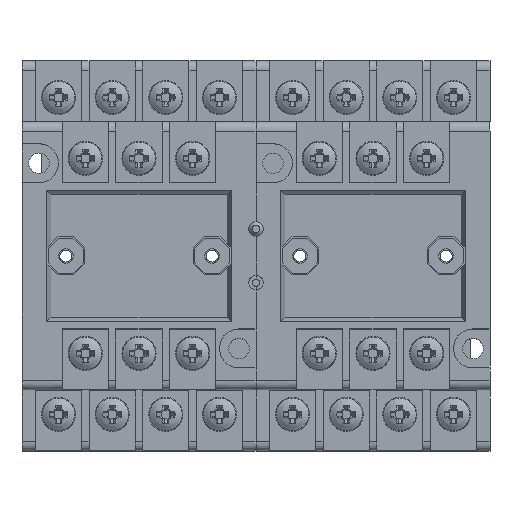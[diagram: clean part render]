
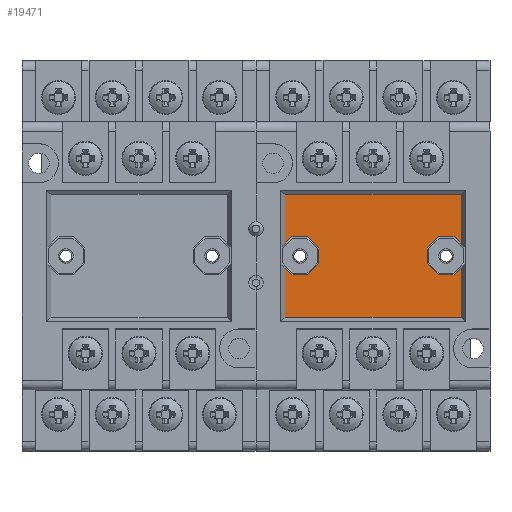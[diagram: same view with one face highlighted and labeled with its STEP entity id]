
A CAD part, top view. The second image highlights one B-rep face of the part: STEP entity #19471.
In plain terms, the highlighted planar face has unit normal (0, 0, 1).
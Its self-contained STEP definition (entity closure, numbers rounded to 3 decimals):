
#18095=CARTESIAN_POINT('',(35.1,1.615,25.5));
#18096=VERTEX_POINT('',#18095);
#18097=CARTESIAN_POINT('',(37.385,3.9,25.5));
#18098=VERTEX_POINT('',#18097);
#18099=CARTESIAN_POINT('',(35.1,1.615,25.5));
#18100=DIRECTION('',(0.707,0.707,0.0));
#18101=VECTOR('',#18100,3.231);
#18102=LINE('',#18099,#18101);
#18103=EDGE_CURVE('',#18096,#18098,#18102,.T.);
#18135=CARTESIAN_POINT('',(40.615,3.9,25.5));
#18136=VERTEX_POINT('',#18135);
#18137=CARTESIAN_POINT('',(37.385,3.9,25.5));
#18138=DIRECTION('',(1.0,0.,0.0));
#18139=VECTOR('',#18138,3.231);
#18140=LINE('',#18137,#18139);
#18141=EDGE_CURVE('',#18098,#18136,#18140,.T.);
#18166=CARTESIAN_POINT('',(42.09,2.425,25.5));
#18167=VERTEX_POINT('',#18166);
#18168=CARTESIAN_POINT('',(40.615,3.9,25.5));
#18169=DIRECTION('',(0.707,-0.707,0.0));
#18170=VECTOR('',#18169,2.085);
#18171=LINE('',#18168,#18170);
#18172=EDGE_CURVE('',#18136,#18167,#18171,.T.);
#18236=CARTESIAN_POINT('',(35.1,-1.615,25.5));
#18237=VERTEX_POINT('',#18236);
#18238=CARTESIAN_POINT('',(35.1,-1.615,25.5));
#18239=DIRECTION('',(0.,1.0,0.0));
#18240=VECTOR('',#18239,3.231);
#18241=LINE('',#18238,#18240);
#18242=EDGE_CURVE('',#18237,#18096,#18241,.T.);
#18267=CARTESIAN_POINT('',(37.385,-3.9,25.5));
#18268=VERTEX_POINT('',#18267);
#18269=CARTESIAN_POINT('',(37.385,-3.9,25.5));
#18270=DIRECTION('',(-0.707,0.707,0.0));
#18271=VECTOR('',#18270,3.231);
#18272=LINE('',#18269,#18271);
#18273=EDGE_CURVE('',#18268,#18237,#18272,.T.);
#18298=CARTESIAN_POINT('',(40.615,-3.9,25.5));
#18299=VERTEX_POINT('',#18298);
#18300=CARTESIAN_POINT('',(40.615,-3.9,25.5));
#18301=DIRECTION('',(-1.0,0.,0.0));
#18302=VECTOR('',#18301,3.231);
#18303=LINE('',#18300,#18302);
#18304=EDGE_CURVE('',#18299,#18268,#18303,.T.);
#18329=CARTESIAN_POINT('',(42.09,-2.425,25.5));
#18330=VERTEX_POINT('',#18329);
#18331=CARTESIAN_POINT('',(42.09,-2.425,25.5));
#18332=DIRECTION('',(-0.707,-0.707,0.0));
#18333=VECTOR('',#18332,2.085);
#18334=LINE('',#18331,#18333);
#18335=EDGE_CURVE('',#18330,#18299,#18334,.T.);
#18385=CARTESIAN_POINT('',(12.9,-1.615,25.5));
#18386=VERTEX_POINT('',#18385);
#18387=CARTESIAN_POINT('',(10.615,-3.9,25.5));
#18388=VERTEX_POINT('',#18387);
#18389=CARTESIAN_POINT('',(12.9,-1.615,25.5));
#18390=DIRECTION('',(-0.707,-0.707,0.0));
#18391=VECTOR('',#18390,3.231);
#18392=LINE('',#18389,#18391);
#18393=EDGE_CURVE('',#18386,#18388,#18392,.T.);
#18425=CARTESIAN_POINT('',(7.385,-3.9,25.5));
#18426=VERTEX_POINT('',#18425);
#18427=CARTESIAN_POINT('',(10.615,-3.9,25.5));
#18428=DIRECTION('',(-1.0,0.0,0.0));
#18429=VECTOR('',#18428,3.231);
#18430=LINE('',#18427,#18429);
#18431=EDGE_CURVE('',#18388,#18426,#18430,.T.);
#18456=CARTESIAN_POINT('',(5.91,-2.425,25.5));
#18457=VERTEX_POINT('',#18456);
#18458=CARTESIAN_POINT('',(7.385,-3.9,25.5));
#18459=DIRECTION('',(-0.707,0.707,0.0));
#18460=VECTOR('',#18459,2.085);
#18461=LINE('',#18458,#18460);
#18462=EDGE_CURVE('',#18426,#18457,#18461,.T.);
#18526=CARTESIAN_POINT('',(10.615,3.9,25.5));
#18527=VERTEX_POINT('',#18526);
#18528=CARTESIAN_POINT('',(12.9,1.615,25.5));
#18529=VERTEX_POINT('',#18528);
#18530=CARTESIAN_POINT('',(10.615,3.9,25.5));
#18531=DIRECTION('',(0.707,-0.707,0.0));
#18532=VECTOR('',#18531,3.231);
#18533=LINE('',#18530,#18532);
#18534=EDGE_CURVE('',#18527,#18529,#18533,.T.);
#18566=CARTESIAN_POINT('',(7.385,3.9,25.5));
#18567=VERTEX_POINT('',#18566);
#18568=CARTESIAN_POINT('',(7.385,3.9,25.5));
#18569=DIRECTION('',(1.0,0.0,0.0));
#18570=VECTOR('',#18569,3.231);
#18571=LINE('',#18568,#18570);
#18572=EDGE_CURVE('',#18567,#18527,#18571,.T.);
#18597=CARTESIAN_POINT('',(5.91,2.425,25.5));
#18598=VERTEX_POINT('',#18597);
#18599=CARTESIAN_POINT('',(5.91,2.425,25.5));
#18600=DIRECTION('',(0.707,0.707,0.0));
#18601=VECTOR('',#18600,2.085);
#18602=LINE('',#18599,#18601);
#18603=EDGE_CURVE('',#18598,#18567,#18602,.T.);
#18627=CARTESIAN_POINT('',(12.9,1.615,25.5));
#18628=DIRECTION('',(0.0,-1.0,0.0));
#18629=VECTOR('',#18628,3.231);
#18630=LINE('',#18627,#18629);
#18631=EDGE_CURVE('',#18529,#18386,#18630,.T.);
#18678=CARTESIAN_POINT('',(42.09,-12.59,25.5));
#18679=VERTEX_POINT('',#18678);
#18680=CARTESIAN_POINT('',(42.09,-12.59,25.5));
#18681=DIRECTION('',(0.,1.0,0.0));
#18682=VECTOR('',#18681,10.165);
#18683=LINE('',#18680,#18682);
#18684=EDGE_CURVE('',#18679,#18330,#18683,.T.);
#18693=CARTESIAN_POINT('',(42.09,12.59,25.5));
#18694=VERTEX_POINT('',#18693);
#18701=CARTESIAN_POINT('',(42.09,2.425,25.5));
#18702=DIRECTION('',(0.,1.0,0.0));
#18703=VECTOR('',#18702,10.165);
#18704=LINE('',#18701,#18703);
#18705=EDGE_CURVE('',#18167,#18694,#18704,.T.);
#18718=CARTESIAN_POINT('',(5.91,12.59,25.5));
#18719=VERTEX_POINT('',#18718);
#18720=CARTESIAN_POINT('',(5.91,12.59,25.5));
#18721=DIRECTION('',(0.,-1.0,0.0));
#18722=VECTOR('',#18721,10.165);
#18723=LINE('',#18720,#18722);
#18724=EDGE_CURVE('',#18719,#18598,#18723,.T.);
#18733=CARTESIAN_POINT('',(5.91,-12.59,25.5));
#18734=VERTEX_POINT('',#18733);
#18741=CARTESIAN_POINT('',(5.91,-2.425,25.5));
#18742=DIRECTION('',(0.,-1.0,0.0));
#18743=VECTOR('',#18742,10.165);
#18744=LINE('',#18741,#18743);
#18745=EDGE_CURVE('',#18457,#18734,#18744,.T.);
#19415=CARTESIAN_POINT('',(5.91,-12.59,25.5));
#19416=DIRECTION('',(1.0,0.,0.0));
#19417=VECTOR('',#19416,36.18);
#19418=LINE('',#19415,#19417);
#19419=EDGE_CURVE('',#18734,#18679,#19418,.T.);
#19432=CARTESIAN_POINT('',(42.09,12.59,25.5));
#19433=DIRECTION('',(-1.0,0.,0.0));
#19434=VECTOR('',#19433,36.18);
#19435=LINE('',#19432,#19434);
#19436=EDGE_CURVE('',#18694,#18719,#19435,.T.);
#19444=CARTESIAN_POINT('',(24.,0.,25.5));
#19445=DIRECTION('',(0.0,0.0,1.0));
#19446=DIRECTION('',(0.0,1.0,0.0));
#19447=AXIS2_PLACEMENT_3D('',#19444,#19445,#19446);
#19448=PLANE('',#19447);
#19449=ORIENTED_EDGE('',*,*,#18172,.T.);
#19450=ORIENTED_EDGE('',*,*,#18705,.T.);
#19451=ORIENTED_EDGE('',*,*,#19436,.T.);
#19452=ORIENTED_EDGE('',*,*,#18724,.T.);
#19453=ORIENTED_EDGE('',*,*,#18603,.T.);
#19454=ORIENTED_EDGE('',*,*,#18572,.T.);
#19455=ORIENTED_EDGE('',*,*,#18534,.T.);
#19456=ORIENTED_EDGE('',*,*,#18631,.T.);
#19457=ORIENTED_EDGE('',*,*,#18393,.T.);
#19458=ORIENTED_EDGE('',*,*,#18431,.T.);
#19459=ORIENTED_EDGE('',*,*,#18462,.T.);
#19460=ORIENTED_EDGE('',*,*,#18745,.T.);
#19461=ORIENTED_EDGE('',*,*,#19419,.T.);
#19462=ORIENTED_EDGE('',*,*,#18684,.T.);
#19463=ORIENTED_EDGE('',*,*,#18335,.T.);
#19464=ORIENTED_EDGE('',*,*,#18304,.T.);
#19465=ORIENTED_EDGE('',*,*,#18273,.T.);
#19466=ORIENTED_EDGE('',*,*,#18242,.T.);
#19467=ORIENTED_EDGE('',*,*,#18103,.T.);
#19468=ORIENTED_EDGE('',*,*,#18141,.T.);
#19469=EDGE_LOOP('',(#19449,#19450,#19451,#19452,#19453,#19454,#19455,#19456,#19457,#19458,#19459,#19460,#19461,#19462,#19463,#19464,#19465,#19466,#19467,#19468));
#19470=FACE_OUTER_BOUND('',#19469,.T.);
#19471=ADVANCED_FACE('',(#19470),#19448,.T.);
